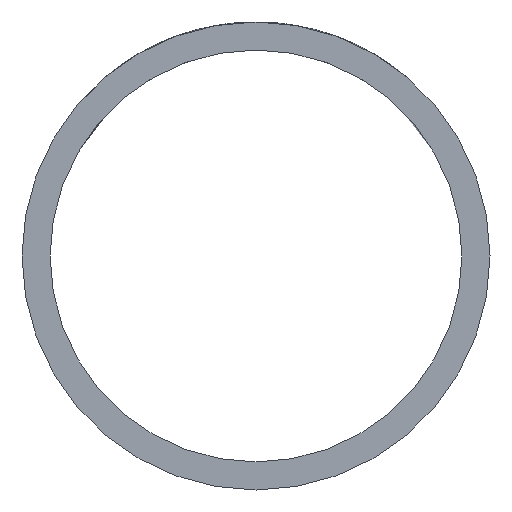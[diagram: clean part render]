
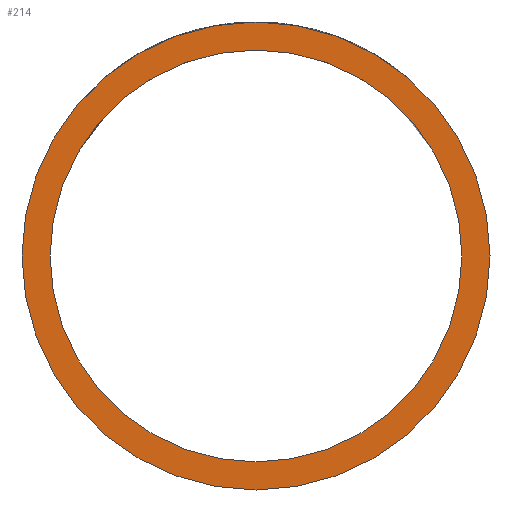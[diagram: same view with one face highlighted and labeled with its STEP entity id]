
A CAD part, front view. The second image highlights one B-rep face of the part: STEP entity #214.
In plain terms, the highlighted planar face has unit normal (0, -1, 0).
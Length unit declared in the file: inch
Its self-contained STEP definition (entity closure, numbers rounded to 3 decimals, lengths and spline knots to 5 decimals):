
#6 = ORIENTED_EDGE ( 'NONE', *, *, #388, .T. ) ;
#9 = ORIENTED_EDGE ( 'NONE', *, *, #378, .T. ) ;
#56 = EDGE_LOOP ( 'NONE', ( #6, #9 ) ) ;
#126 = EDGE_LOOP ( 'NONE', ( #195, #201 ) ) ;
#153 = VERTEX_POINT ( 'NONE', #1120 ) ;
#157 = VERTEX_POINT ( 'NONE', #1128 ) ;
#165 = VERTEX_POINT ( 'NONE', #1138 ) ;
#193 = VERTEX_POINT ( 'NONE', #1085 ) ;
#195 = ORIENTED_EDGE ( 'NONE', *, *, #397, .F. ) ;
#201 = ORIENTED_EDGE ( 'NONE', *, *, #1254, .F. ) ;
#214 = ADVANCED_FACE ( 'NONE', ( #1228, #1238 ), #1058, .F. ) ;
#301 = CARTESIAN_POINT ( 'NONE',  ( 0., 0., 0. ) ) ;
#311 = DIRECTION ( 'NONE',  ( 1., 0., 0. ) ) ;
#317 = DIRECTION ( 'NONE',  ( 0., 1., 0. ) ) ;
#334 = DIRECTION ( 'NONE',  ( 0., 1., 0. ) ) ;
#346 = CARTESIAN_POINT ( 'NONE',  ( 0., 0., 0. ) ) ;
#363 = DIRECTION ( 'NONE',  ( 1., 0., 0. ) ) ;
#378 = EDGE_CURVE ( 'NONE', #157, #193, #1171, .T. ) ;
#388 = EDGE_CURVE ( 'NONE', #193, #157, #1176, .T. ) ;
#397 = EDGE_CURVE ( 'NONE', #153, #165, #1210, .T. ) ;
#434 = AXIS2_PLACEMENT_3D ( 'NONE', #346, #334, #363 ) ;
#441 = AXIS2_PLACEMENT_3D ( 'NONE', #503, #482, #488 ) ;
#450 = AXIS2_PLACEMENT_3D ( 'NONE', #301, #317, #311 ) ;
#452 = AXIS2_PLACEMENT_3D ( 'NONE', #945, #970, #946 ) ;
#461 = AXIS2_PLACEMENT_3D ( 'NONE', #1088, #1099, #1061 ) ;
#482 = DIRECTION ( 'NONE',  ( 0., 1., 0. ) ) ;
#488 = DIRECTION ( 'NONE',  ( 0., 0., 1. ) ) ;
#503 = CARTESIAN_POINT ( 'NONE',  ( 0., 0., 0. ) ) ;
#945 = CARTESIAN_POINT ( 'NONE',  ( 0., 0., 0. ) ) ;
#946 = DIRECTION ( 'NONE',  ( 0., 0., 1. ) ) ;
#970 = DIRECTION ( 'NONE',  ( 0., 1., 0. ) ) ;
#1058 = PLANE ( 'NONE',  #461 ) ;
#1061 = DIRECTION ( 'NONE',  ( 0., 0., 1. ) ) ;
#1085 = CARTESIAN_POINT ( 'NONE',  ( 0., 0., -0.88 ) ) ;
#1088 = CARTESIAN_POINT ( 'NONE',  ( 0., 0., 0. ) ) ;
#1099 = DIRECTION ( 'NONE',  ( 0., 1., 0. ) ) ;
#1120 = CARTESIAN_POINT ( 'NONE',  ( 0., 0., -1. ) ) ;
#1128 = CARTESIAN_POINT ( 'NONE',  ( 0., 0., 0.88 ) ) ;
#1138 = CARTESIAN_POINT ( 'NONE',  ( 0., 0., 1. ) ) ;
#1171 = CIRCLE ( 'NONE', #450, 0.88 ) ;
#1172 = CIRCLE ( 'NONE', #452, 1. ) ;
#1176 = CIRCLE ( 'NONE', #434, 0.88 ) ;
#1210 = CIRCLE ( 'NONE', #441, 1. ) ;
#1228 = FACE_OUTER_BOUND ( 'NONE', #126, .T. ) ;
#1238 = FACE_BOUND ( 'NONE', #56, .T. ) ;
#1254 = EDGE_CURVE ( 'NONE', #165, #153, #1172, .T. ) ;
